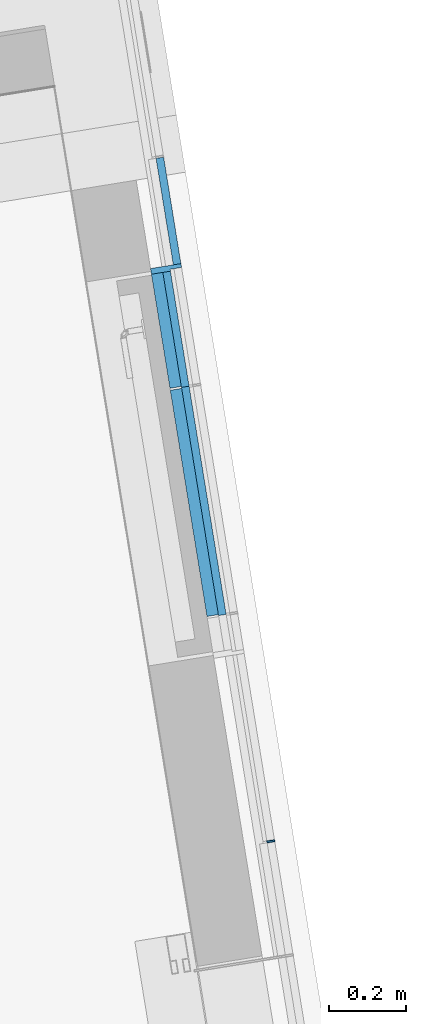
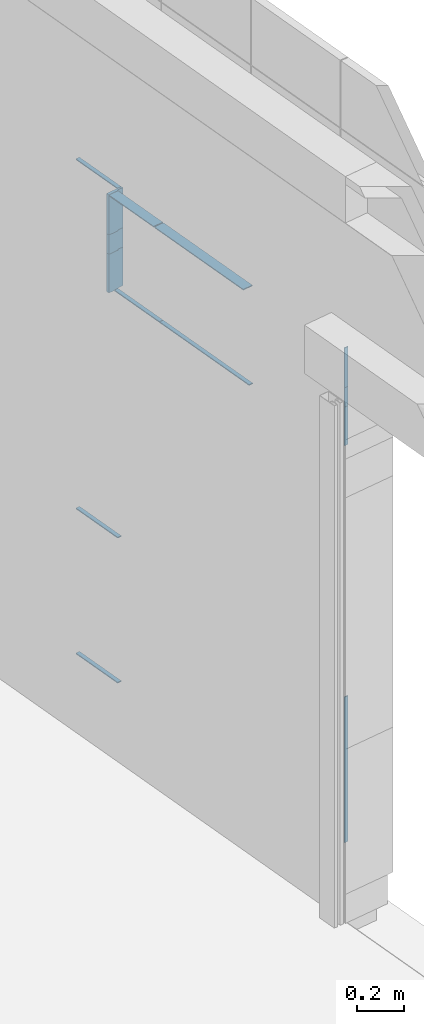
# One storey, part 9 of 38: 14 members, 1 element without a shape of its own.
"""IFC2X3 building model written with IfcOpenShell, lengths in millimetres."""

from ifc_helpers import new_model, entity, si_unit, converted_unit, derived_unit, direction, frame, frame_2d, origin, origin_with_axes, origin_2d_with_axis, place, context, subcontext, project, spatial, polyline, rectangle, outline, extrude, source, transform, mapped, material, type_object, element, aggregate, save


model = new_model("IFC2X3")

# Units and contexts
model_context = context("Model", 3, precision=0.01, world=origin(), true_north=direction((6.12323399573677e-17, 1.0)))
plan_context = context("Plan", 3, precision=1e-05, world=origin_with_axes())
body_context = subcontext(model_context, "Body", "Model", "MODEL_VIEW")
ifc_project = project(units=[converted_unit("PLANEANGLEUNIT", "DEGREE", entity("IfcPositiveLengthMeasure", 0.0174532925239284), si_unit("PLANEANGLEUNIT", "RADIAN"), dimensions=[0, 0, 0, 0, 0, 0, 0]), si_unit("AREAUNIT", "SQUARE_METRE"), si_unit("LENGTHUNIT", "METRE", prefix="MILLI"), si_unit("MASSUNIT", "GRAM", prefix="KILO"), si_unit("POWERUNIT", "WATT"), si_unit("PRESSUREUNIT", "PASCAL", prefix="KILO"), si_unit("FORCEUNIT", "NEWTON", prefix="KILO"), si_unit("ELECTRICVOLTAGEUNIT", "VOLT"), si_unit("ELECTRICCURRENTUNIT", "AMPERE"), si_unit("THERMODYNAMICTEMPERATUREUNIT", "DEGREE_CELSIUS"), si_unit("TIMEUNIT", "SECOND"), si_unit("VOLUMEUNIT", "CUBIC_METRE"), derived_unit("LINEARVELOCITYUNIT", [(si_unit("LENGTHUNIT", "METRE"), 1), (si_unit("TIMEUNIT", "SECOND"), -1)]), derived_unit("VOLUMETRICFLOWRATEUNIT", [(si_unit("VOLUMEUNIT", "CUBIC_METRE"), 1), (si_unit("TIMEUNIT", "SECOND"), -1)]), derived_unit("THERMALTRANSMITTANCEUNIT", [(si_unit("POWERUNIT", "WATT"), 1), (si_unit("THERMODYNAMICTEMPERATUREUNIT", "KELVIN"), -1), (si_unit("AREAUNIT", "SQUARE_METRE"), -1)]), derived_unit("SOUNDPRESSUREUNIT", [(si_unit("PRESSUREUNIT", "PASCAL"), 1)])], contexts=[model_context, plan_context])

# Site, building, storey
site_placement = place(None, frame((-0.00071070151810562, 0.00438415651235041, 0.0), z_axis=(0.0, 0.0, 1.0), x_axis=(-0.160236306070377, 0.987078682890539, 0.0)))
site = spatial("IfcSite", under=ifc_project, at=site_placement, Name="Default", CompositionType="ELEMENT")
building_placement = place(site_placement, origin_with_axes())
building = spatial("IfcBuilding", under=site, at=building_placement, Name="TOO", CompositionType="ELEMENT")
storey_placement = place(building_placement, frame((0.0, 0.0, 50999.9999999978), z_axis=(0.0, 0.0, 1.0), x_axis=(1.0, 0.0, 0.0)))
storey = spatial("IfcBuildingStorey", under=building, at=storey_placement, Name="Nivå D-H01", CompositionType="ELEMENT", Elevation=50999.9999999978)

# Curtain wall, members
curtain_wall_type = type_object("IfcCurtainWallType", Name="Curtain Wall:Curtain Wall Standard (Bruk kun denne)", PredefinedType="NOTDEFINED")
curtain_wall_placement = place(storey_placement, frame((0.0, 0.0, -50999.9999999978), z_axis=(0.0, 0.0, 1.0), x_axis=(1.0, 0.0, 0.0)))
curtain_wall = element("IfcCurtainWall", 1, at=curtain_wall_placement, inside=storey, type_object=curtain_wall_type, Name="Curtain Wall:Curtain Wall Standard (Bruk kun denne)", ObjectType="Curtain Wall:Curtain Wall Standard (Bruk kun denne)")
ifc_material_1 = material(Name="A200 - Metall - Stål")
member_type_1 = type_object("IfcMemberType", Name="Rectangular Mullion:A248-M11 vinkelprofil 50", PredefinedType="MULLION", material=ifc_material_1)
shared_shape_1 = source(origin(), body_context, "Body", "SweptSolid", [
    extrude(rectangle(XDim=5.0, YDim=50.0, at=frame_2d((0.0, 7.105427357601e-15), x_axis=(1.0, 0.0))), frame((0.0, 55.0, -595.0), z_axis=(0.0, 0.0, 1.0), x_axis=(-1.0, 0.0, 0.0)), (0.0, 0.0, 1.0), 595.000000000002),
])
member_1_placement = place(curtain_wall_placement, frame((778380.119644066, -604232.480498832, 53704.9999999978), z_axis=(-1.0, 0.0, 0.0), x_axis=(0.0, 0.0, 1.0)))
member_1 = element("IfcMember", 2, at=member_1_placement, type_object=member_type_1, material=ifc_material_1, Name="Rectangular Mullion:A248-M11 vinkelprofil 50", ObjectType="Rectangular Mullion:A248-M11 vinkelprofil 50", context=body_context, shape_type="MappedRepresentation", body=[
    mapped(shared_shape_1, transform((0.0, 0.0, 0.0), scale=1.0)),
])
member_type_2 = type_object("IfcMemberType", Name="Rectangular Mullion:A248-M11 vinkelprofil 50", PredefinedType="MULLION", material=ifc_material_1)
shared_shape_2 = source(origin(), body_context, "Body", "SweptSolid", [
    extrude(rectangle(XDim=5.0, YDim=50.0, at=frame_2d((0.0, 7.105427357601e-15), x_axis=(1.0, 0.0))), frame((0.0, 55.0, -300.0), z_axis=(0.0, 0.0, 1.0), x_axis=(-1.0, 0.0, 0.0)), (0.0, 0.0, 1.0), 300.000000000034),
])
member_2_placement = place(curtain_wall_placement, frame((778980.119644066, -604232.480498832, 53704.9999999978), z_axis=(-1.0, 0.0, 0.0), x_axis=(0.0, 0.0, 1.0)))
member_2 = element("IfcMember", 3, at=member_2_placement, type_object=member_type_2, material=ifc_material_1, Name="Rectangular Mullion:A248-M11 vinkelprofil 50", ObjectType="Rectangular Mullion:A248-M11 vinkelprofil 50", context=body_context, shape_type="MappedRepresentation", body=[
    mapped(shared_shape_2, transform((0.0, 0.0, 0.0), scale=1.0)),
])
member_type_3 = type_object("IfcMemberType", Name="Rectangular Mullion:A248-M11 vinkelprofil 80 høyre", PredefinedType="MULLION", material=ifc_material_1)
shared_shape_3 = source(origin(), body_context, "Body", "SweptSolid", [
    extrude(outline(polyline([(-43.3333333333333, -8.33333333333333), (36.6666666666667, -8.33333333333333), (36.6666666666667, 1.66666666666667), (6.66666666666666, 1.66666666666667), (6.66666666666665, 6.66666666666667), (-43.3333333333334, 6.66666666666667), (-43.3333333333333, -8.33333333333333)])), frame((0.833333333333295, 36.6666666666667, -207.499999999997), z_axis=(0.0, 0.0, 1.0), x_axis=(0.0, -1.0, 0.0)), (0.0, 0.0, 1.0), 207.499999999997),
])
member_3_placement = place(curtain_wall_placement, frame((779287.619644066, -604232.480498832, 53499.9999999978), z_axis=(0.0, 0.0, -1.0), x_axis=(-1.0, 0.0, 0.0)))
member_3 = element("IfcMember", 4, at=member_3_placement, type_object=member_type_3, material=ifc_material_1, Name="Rectangular Mullion:A248-M11 vinkelprofil 80 høyre", ObjectType="Rectangular Mullion:A248-M11 vinkelprofil 80 høyre", context=body_context, shape_type="MappedRepresentation", body=[
    mapped(shared_shape_3, transform((0.0, 0.0, 0.0), scale=1.0)),
])
member_type_4 = type_object("IfcMemberType", Name="Rectangular Mullion:A248-M11 vinkelprofil 80 høyre", PredefinedType="MULLION", material=ifc_material_1)
shared_shape_4 = source(origin(), body_context, "Body", "SweptSolid", [
    extrude(outline(polyline([(-43.3333333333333, -8.33333333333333), (36.6666666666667, -8.33333333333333), (36.6666666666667, 1.66666666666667), (6.66666666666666, 1.66666666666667), (6.66666666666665, 6.66666666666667), (-43.3333333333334, 6.66666666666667), (-43.3333333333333, -8.33333333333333)])), frame((0.833333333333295, 36.6666666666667, -100.0), z_axis=(0.0, 0.0, 1.0), x_axis=(0.0, -1.0, 0.0)), (0.0, 0.0, 1.0), 100.000000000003),
])
member_4_placement = place(curtain_wall_placement, frame((779287.619644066, -604232.480498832, 53399.9999999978), z_axis=(0.0, 0.0, -1.0), x_axis=(-1.0, 0.0, 0.0)))
member_4 = element("IfcMember", 5, at=member_4_placement, type_object=member_type_4, material=ifc_material_1, Name="Rectangular Mullion:A248-M11 vinkelprofil 80 høyre", ObjectType="Rectangular Mullion:A248-M11 vinkelprofil 80 høyre", context=body_context, shape_type="MappedRepresentation", body=[
    mapped(shared_shape_4, transform((0.0, 0.0, 0.0), scale=1.0)),
])
member_type_5 = type_object("IfcMemberType", Name="Rectangular Mullion:A248-M11 vinkelprofil 80 høyre", PredefinedType="MULLION", material=ifc_material_1)
shared_shape_5 = source(origin(), body_context, "Body", "SweptSolid", [
    extrude(outline(polyline([(-43.3333333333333, -8.33333333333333), (36.6666666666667, -8.33333333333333), (36.6666666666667, 1.66666666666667), (6.66666666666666, 1.66666666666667), (6.66666666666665, 6.66666666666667), (-43.3333333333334, 6.66666666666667), (-43.3333333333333, -8.33333333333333)])), frame((0.833333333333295, 36.6666666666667, -200.0), z_axis=(0.0, 0.0, 1.0), x_axis=(0.0, -1.0, 0.0)), (0.0, 0.0, 1.0), 199.999999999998),
])
member_5_placement = place(curtain_wall_placement, frame((779287.619644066, -604232.480498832, 53199.9999999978), z_axis=(0.0, 0.0, -1.0), x_axis=(-1.0, 0.0, 0.0)))
member_5 = element("IfcMember", 6, at=member_5_placement, type_object=member_type_5, material=ifc_material_1, Name="Rectangular Mullion:A248-M11 vinkelprofil 80 høyre", ObjectType="Rectangular Mullion:A248-M11 vinkelprofil 80 høyre", context=body_context, shape_type="MappedRepresentation", body=[
    mapped(shared_shape_5, transform((0.0, 0.0, 0.0), scale=1.0)),
])
ifc_material_2 = material(Name="Rubber")
member_type_6 = type_object("IfcMemberType", Name="Rectangular Mullion:A246 - Fuge 5mm L09", PredefinedType="MULLION", material=ifc_material_2)
shared_shape_6 = source(origin(), body_context, "Body", "SweptSolid", [
    extrude(rectangle(XDim=5.0, YDim=20.0, at=origin_2d_with_axis()), frame((0.0, 10.0, -280.0), z_axis=(0.0, 0.0, 1.0), x_axis=(-1.0, 0.0, 0.0)), (0.0, 0.0, 1.0), 280.000000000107),
])
member_6_placement = place(curtain_wall_placement, frame((779295.119644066, -604232.480498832, 51149.9999999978), z_axis=(-1.0, 0.0, 0.0), x_axis=(0.0, 0.0, 1.0)))
member_6 = element("IfcMember", 7, at=member_6_placement, type_object=member_type_6, material=ifc_material_2, Name="Rectangular Mullion:A246 - Fuge 5mm L09", ObjectType="Rectangular Mullion:A246 - Fuge 5mm L09", context=body_context, shape_type="MappedRepresentation", body=[
    mapped(shared_shape_6, transform((0.0, 0.0, 0.0), scale=1.0)),
])
member_7_placement = place(curtain_wall_placement, frame((779295.119644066, -604232.480498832, 53704.9999999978), z_axis=(-1.0, 0.0, 0.0), x_axis=(0.0, 0.0, 1.0)))
member_7 = element("IfcMember", 8, at=member_7_placement, type_object=member_type_6, material=ifc_material_2, Name="Rectangular Mullion:A246 - Fuge 5mm L09", ObjectType="Rectangular Mullion:A246 - Fuge 5mm L09", context=body_context, shape_type="MappedRepresentation", body=[
    mapped(shared_shape_6, transform((0.0, 0.0, 0.0), scale=1.0)),
])
member_8_placement = place(curtain_wall_placement, frame((779295.119644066, -604232.480498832, 51899.9999999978), z_axis=(-1.0, 0.0, 0.0), x_axis=(0.0, 0.0, 1.0)))
member_8 = element("IfcMember", 9, at=member_8_placement, type_object=member_type_6, material=ifc_material_2, Name="Rectangular Mullion:A246 - Fuge 5mm L09", ObjectType="Rectangular Mullion:A246 - Fuge 5mm L09", context=body_context, shape_type="MappedRepresentation", body=[
    mapped(shared_shape_6, transform((0.0, 0.0, 0.0), scale=1.0)),
])
member_type_7 = type_object("IfcMemberType", Name="Rectangular Mullion:A246 - Fuge 5mm L01", PredefinedType="MULLION", material=ifc_material_2)
shared_shape_7 = source(origin(), body_context, "Body", "SweptSolid", [
    extrude(rectangle(XDim=5.0, YDim=20.0, at=origin_2d_with_axis()), frame((0.0, 40.0, -302.500000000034), z_axis=(0.0, 0.0, 1.0), x_axis=(-1.0, 0.0, 0.0)), (0.0, 0.0, 1.0), 302.500000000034),
])
member_9_placement = place(curtain_wall_placement, frame((778977.619644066, -604232.480498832, 53199.9999999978), z_axis=(-1.0, 0.0, 0.0), x_axis=(0.0, 0.0, 1.0)))
member_9 = element("IfcMember", 10, at=member_9_placement, type_object=member_type_7, material=ifc_material_2, Name="Rectangular Mullion:A246 - Fuge 5mm L01", ObjectType="Rectangular Mullion:A246 - Fuge 5mm L01", context=body_context, shape_type="MappedRepresentation", body=[
    mapped(shared_shape_7, transform((0.0, 0.0, 0.0), scale=1.0)),
])
member_type_8 = type_object("IfcMemberType", Name="Rectangular Mullion:A246 - Fuge 5mm L01", PredefinedType="MULLION", material=ifc_material_2)
shared_shape_8 = source(origin(), body_context, "Body", "SweptSolid", [
    extrude(rectangle(XDim=5.0, YDim=20.0, at=origin_2d_with_axis()), frame((0.0, 40.0, -600.0), z_axis=(0.0, 0.0, 1.0), x_axis=(-1.0, 0.0, 0.0)), (0.0, 0.0, 1.0), 600.000000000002),
])
member_10_placement = place(curtain_wall_placement, frame((778377.619644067, -604232.480498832, 53199.9999999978), z_axis=(-1.0, 0.0, 0.0), x_axis=(0.0, 0.0, 1.0)))
member_10 = element("IfcMember", 11, at=member_10_placement, type_object=member_type_8, material=ifc_material_2, Name="Rectangular Mullion:A246 - Fuge 5mm L01", ObjectType="Rectangular Mullion:A246 - Fuge 5mm L01", context=body_context, shape_type="MappedRepresentation", body=[
    mapped(shared_shape_8, transform((0.0, 0.0, 0.0), scale=1.0)),
])
member_type_9 = type_object("IfcMemberType", Name="Rectangular Mullion:A246 - Fuge 5mm L09", PredefinedType="MULLION", material=ifc_material_2)
shared_shape_9 = source(origin(), body_context, "Body", "SweptSolid", [
    extrude(rectangle(XDim=5.0, YDim=20.0, at=origin_2d_with_axis()), frame((0.0, 10.0, -752.500000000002), z_axis=(0.0, 0.0, 1.0), x_axis=(-1.0, 0.0, 0.0)), (0.0, 0.0, 1.0), 752.500000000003),
])
member_11_placement = place(curtain_wall_placement, frame((777777.619644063, -604232.480498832, 51147.4999999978), z_axis=(0.0, 0.0, -1.0), x_axis=(-1.0, 0.0, 0.0)))
member_11 = element("IfcMember", 12, at=member_11_placement, type_object=member_type_9, material=ifc_material_2, Name="Rectangular Mullion:A246 - Fuge 5mm L09", ObjectType="Rectangular Mullion:A246 - Fuge 5mm L09", context=body_context, shape_type="MappedRepresentation", body=[
    mapped(shared_shape_9, transform((0.0, 0.0, 0.0), scale=1.0)),
])
member_type_10 = type_object("IfcMemberType", Name="Rectangular Mullion:A246 - Fuge 5mm L09", PredefinedType="MULLION", material=ifc_material_2)
shared_shape_10 = source(origin(), body_context, "Body", "SweptSolid", [
    extrude(rectangle(XDim=5.0, YDim=20.0, at=origin_2d_with_axis()), frame((0.0, 10.0, -200.0), z_axis=(0.0, 0.0, 1.0), x_axis=(-1.0, 0.0, 0.0)), (0.0, 0.0, 1.0), 200.000000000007),
])
member_12_placement = place(curtain_wall_placement, frame((777777.619644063, -604232.480498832, 53199.9999999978), z_axis=(0.0, 0.0, -1.0), x_axis=(-1.0, 0.0, 0.0)))
member_12 = element("IfcMember", 13, at=member_12_placement, type_object=member_type_10, material=ifc_material_2, Name="Rectangular Mullion:A246 - Fuge 5mm L09", ObjectType="Rectangular Mullion:A246 - Fuge 5mm L09", context=body_context, shape_type="MappedRepresentation", body=[
    mapped(shared_shape_10, transform((0.0, 0.0, 0.0), scale=1.0)),
])
member_type_11 = type_object("IfcMemberType", Name="Rectangular Mullion:A246 - Fuge 5mm L09", PredefinedType="MULLION", material=ifc_material_2)
shared_shape_11 = source(origin(), body_context, "Body", "SweptSolid", [
    extrude(rectangle(XDim=5.0, YDim=20.0, at=origin_2d_with_axis()), frame((0.0, 10.0, -100.0), z_axis=(0.0, 0.0, 1.0), x_axis=(-1.0, 0.0, 0.0)), (0.0, 0.0, 1.0), 100.000000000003),
])
member_13_placement = place(curtain_wall_placement, frame((777777.619644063, -604232.480498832, 53399.9999999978), z_axis=(0.0, 0.0, -1.0), x_axis=(-1.0, 0.0, 0.0)))
member_13 = element("IfcMember", 14, at=member_13_placement, type_object=member_type_11, material=ifc_material_2, Name="Rectangular Mullion:A246 - Fuge 5mm L09", ObjectType="Rectangular Mullion:A246 - Fuge 5mm L09", context=body_context, shape_type="MappedRepresentation", body=[
    mapped(shared_shape_11, transform((0.0, 0.0, 0.0), scale=1.0)),
])
member_type_12 = type_object("IfcMemberType", Name="Rectangular Mullion:A246 - Fuge 5mm L09", PredefinedType="MULLION", material=ifc_material_2)
shared_shape_12 = source(origin(), body_context, "Body", "SweptSolid", [
    extrude(rectangle(XDim=5.0, YDim=20.0, at=origin_2d_with_axis()), frame((0.0, 10.0, -205.0), z_axis=(0.0, 0.0, 1.0), x_axis=(-1.0, 0.0, 0.0)), (0.0, 0.0, 1.0), 204.999999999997),
])
member_14_placement = place(curtain_wall_placement, frame((777777.619644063, -604232.480498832, 53499.9999999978), z_axis=(0.0, 0.0, -1.0), x_axis=(-1.0, 0.0, 0.0)))
member_14 = element("IfcMember", 15, at=member_14_placement, type_object=member_type_12, material=ifc_material_2, Name="Rectangular Mullion:A246 - Fuge 5mm L09", ObjectType="Rectangular Mullion:A246 - Fuge 5mm L09", context=body_context, shape_type="MappedRepresentation", body=[
    mapped(shared_shape_12, transform((0.0, 0.0, 0.0), scale=1.0)),
])
aggregate(curtain_wall, [member_1, member_2, member_3, member_4, member_5, member_6, member_9, member_10, member_7, member_8, member_11, member_12, member_13, member_14])

save(model, "model.ifc")
